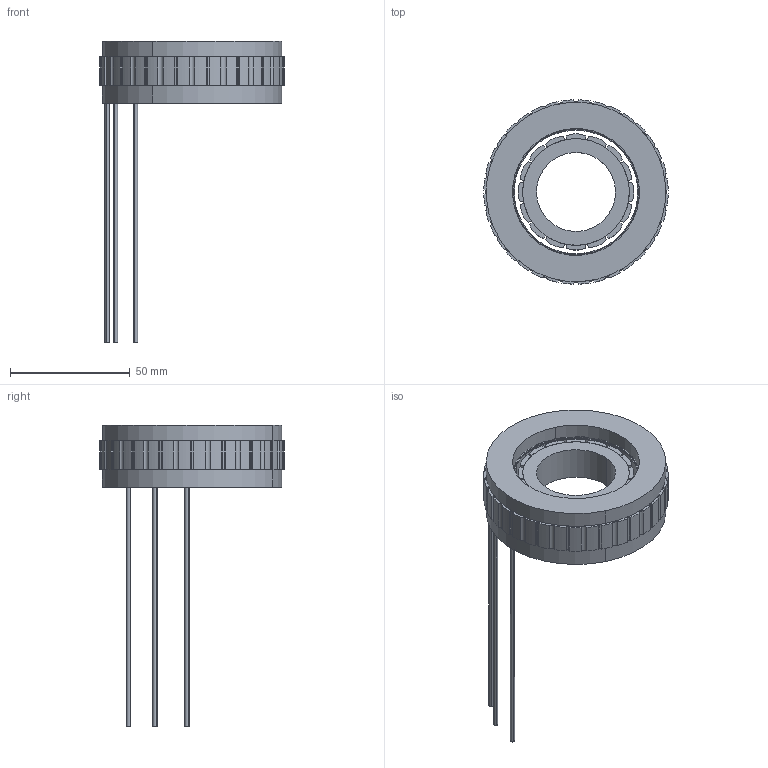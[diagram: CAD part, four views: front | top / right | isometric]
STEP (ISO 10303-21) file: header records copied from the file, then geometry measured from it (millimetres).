
FILE_DESCRIPTION (( 'STEP AP203' ), '1' );
FILE_NAME ('307080334SS FMC07712-0031-3033N-8DS00-V1.0.STEP', '2022-12-07T05:52:29', ( 'muse' ), ( 'muse' ), 'SwSTEP 2.0', 'SolidWorks 2022', '' );
FILE_SCHEMA (( 'CONFIG_CONTROL_DESIGN' ));
Length unit declared in the file: millimetre
Products named in the file (6): 77包胶; 307080334SS FMC07712-0031-3033N-8DS00-V1.0; 10108060463（464）磁钢 （77L13.5-16P-N40SH-1）V1.0; 77定子铁芯; 转子铁芯; 线包
Assembly tree (54 placements, depth 2):
  307080334SS FMC07712-0031-3033N-8DS00-V1.0
    77包胶  x18
    77定子铁芯  x18
    10108060463（464）磁钢 （77L13.5-16P-N40SH-1）V1.0  x16
    线包
    转子铁芯
Bounding box: 76.98 x 76.96 x 126 mm (x, y, z)
Volume: 67091.3 mm3; surface area: 59180.6 mm2
Topology: 55 solids, 55 shells, 1401 faces, 3828 edges, 2504 vertices
Faces by surface type: plane 865, cylinder 536
Entity records: 5373 total; most frequent: DIRECTION 681, CARTESIAN_POINT 600, ORIENTED_EDGE 530, EDGE_CURVE 265, AXIS2_PLACEMENT_3D 255, VERTEX_POINT 174, LINE 171, VECTOR 171
